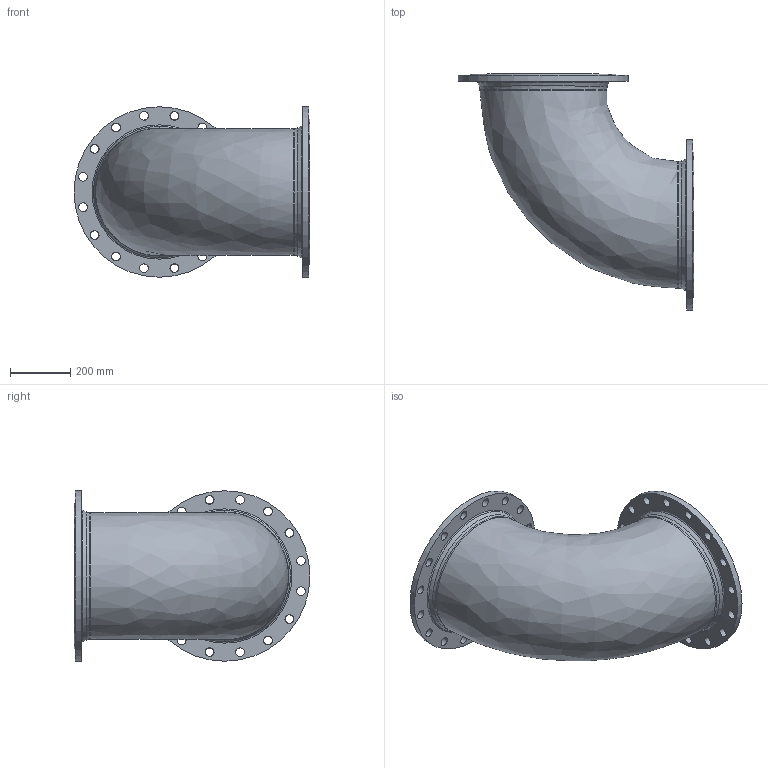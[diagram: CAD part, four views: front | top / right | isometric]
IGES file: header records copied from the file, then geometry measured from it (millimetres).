
Start section: SolidWorks IGES file using analytic representation for surfaces
Global section: file name: \\avksan2\techshare\PBM outline export from Enovia\O_712_0610_DN400_0X_REV01.igs; native system: SolidWorks 2019; preprocessor: SolidWorks 2019; author: pbm; date: 211119.111906; units: millimetre
Bounding box: 782.5 x 782.5 x 565 mm (x, y, z)
Surface area: 3444149.2 mm2 (no closed solid volume)
Topology: 0 solids, 0 shells, 130 faces, 676 edges, 625 vertices
Faces by surface type: bspline 73, revolution 57
